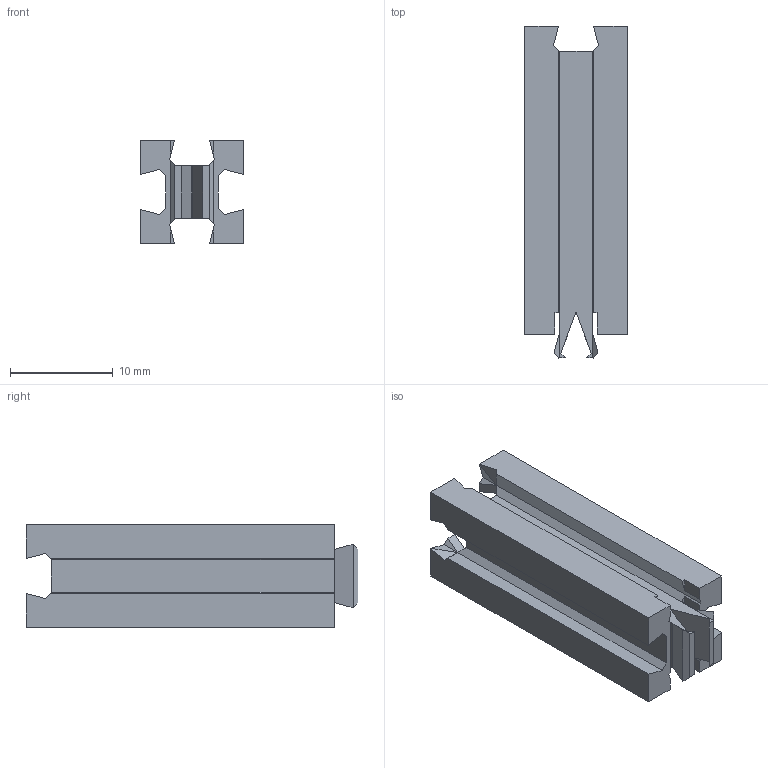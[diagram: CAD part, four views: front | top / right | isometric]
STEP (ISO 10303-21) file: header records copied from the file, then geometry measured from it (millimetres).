
FILE_DESCRIPTION(/* description */ (''),/* implementation_level */ '2;1');
FILE_NAME(/* name */ 'C:/Users/priba/Downloads/Brick1x1x3.step',/* time_stamp */ '2020-06-09T22:10:49+02:00',/* author */ (''),/* organization */ (''),/* preprocessor_version */ 'ST-DEVELOPER v18.1',/* originating_system */ 'Autodesk Translation Framework v9.3.0.1241',/* authorisation */ '');
FILE_SCHEMA (('AUTOMOTIVE_DESIGN { 1 0 10303 214 3 1 1 }'));
Length unit declared in the file: millimetre
Products named in the file (1): Brick1x1x3
Bounding box: 10 x 32.31 x 10 mm (x, y, z)
Volume: 1792.9 mm3; surface area: 2052 mm2
Topology: 1 solids, 1 shells, 108 faces, 258 edges, 152 vertices
Faces by surface type: plane 108
Entity records: 3004 total; most frequent: CARTESIAN_POINT 519, ORIENTED_EDGE 516, DIRECTION 476, LINE 258, VECTOR 258, EDGE_CURVE 258, VERTEX_POINT 152, AXIS2_PLACEMENT_3D 109
